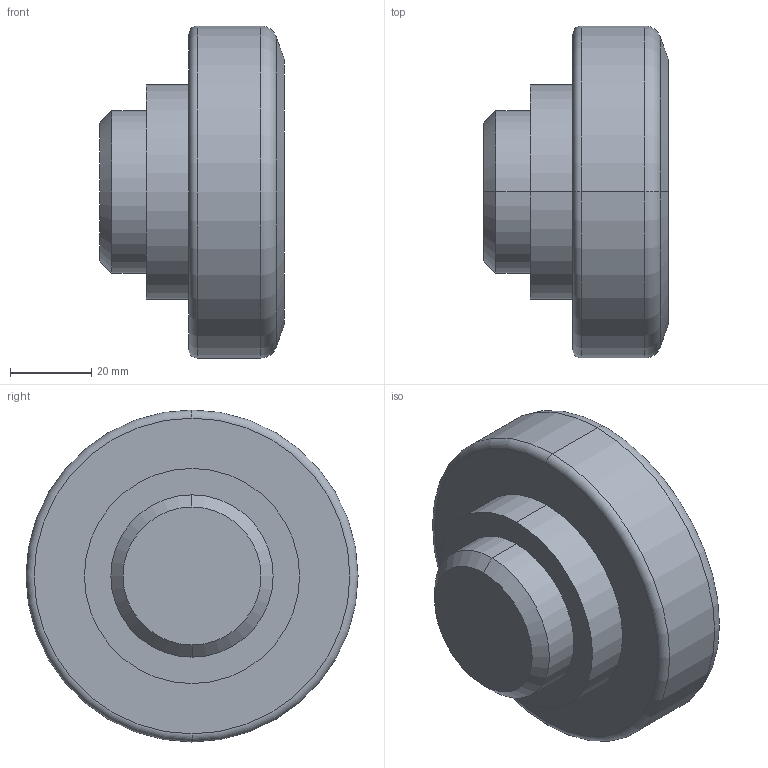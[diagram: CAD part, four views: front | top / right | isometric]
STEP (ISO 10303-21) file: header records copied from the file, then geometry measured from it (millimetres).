
FILE_DESCRIPTION (( 'STEP AP214' ), '1' );
FILE_NAME ('3D9.2102-PR.STEP', '2013-12-18T05:50:23', ( 'usuario' ), ( 'Hewlett-Packard Company' ), 'SwSTEP 2.0', 'SolidWorks 2017', '' );
FILE_SCHEMA (( 'AUTOMOTIVE_DESIGN' ));
Length unit declared in the file: millimetre
Products named in the file (1): 3D9.2102-PR
Bounding box: 45.5 x 81.8 x 81.8 mm (x, y, z)
Volume: 157034 mm3; surface area: 18450.6 mm2
Topology: 1 solids, 1 shells, 18 faces, 34 edges, 20 vertices
Faces by surface type: cylinder 6, cone 4, torus 4, plane 4
Entity records: 492 total; most frequent: DIRECTION 96, CARTESIAN_POINT 73, ORIENTED_EDGE 68, AXIS2_PLACEMENT_3D 43, EDGE_CURVE 34, CIRCLE 24, VERTEX_POINT 20, EDGE_LOOP 20
